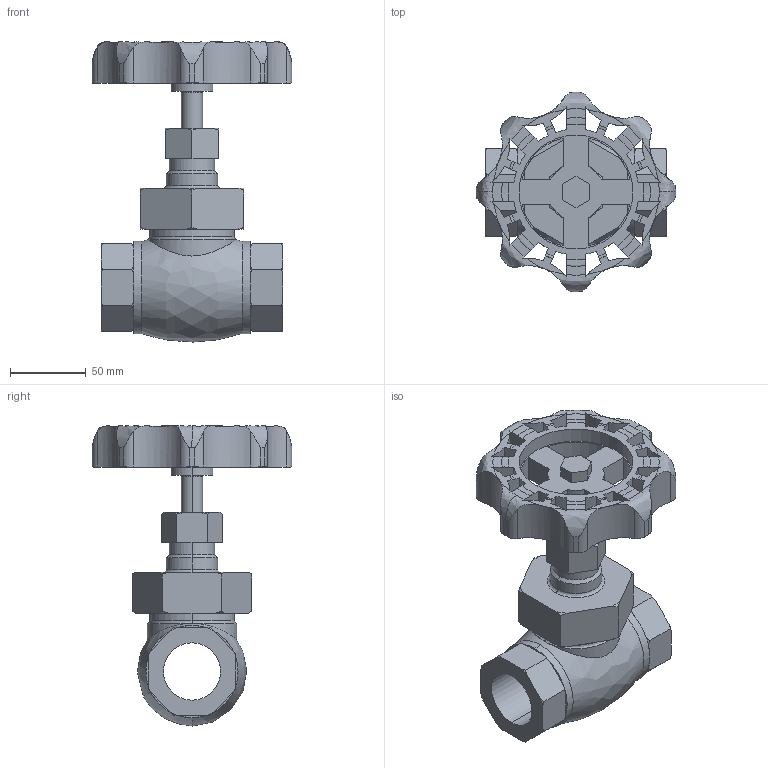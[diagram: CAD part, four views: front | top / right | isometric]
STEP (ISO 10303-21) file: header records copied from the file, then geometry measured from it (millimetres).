
FILE_DESCRIPTION( (''), '2;1');
FILE_NAME ('PC1027.9568.GLV-16 32A_18415.stp','2025-07-28T11:45:25',(''),(''),'spGate 19.8.4 (****-****-****-****)','','');
FILE_SCHEMA (('AUTOMOTIVE_DESIGN'));
Length unit declared in the file: millimetre
Bounding box: 131.72 x 131.74 x 197.99 mm (x, y, z)
Volume: 610514 mm3; surface area: 114572 mm2
Topology: 1 solids, 1 shells, 303 faces, 878 edges, 570 vertices
Faces by surface type: plane 118, cylinder 99, bspline 86
Entity records: 18378 total; most frequent: CARTESIAN_POINT 4306, ORIENTED_EDGE 1756, DIRECTION 1354, COLOUR_RGB 1182, PRESENTATION_STYLE_ASSIGNMENT 1182, STYLED_ITEM 1182, EDGE_CURVE 878, DRAUGHTING_PRE_DEFINED_CURVE_FONT 878
